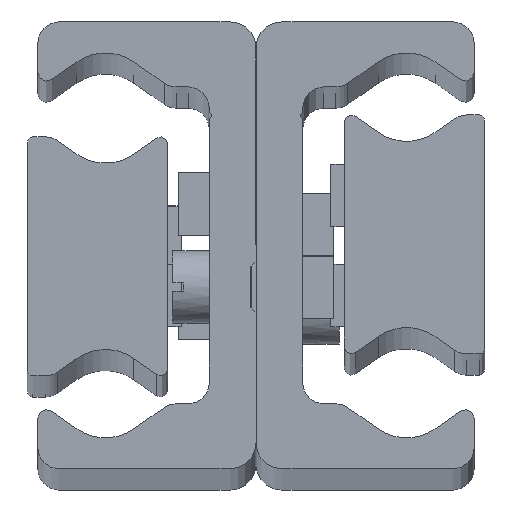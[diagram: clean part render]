
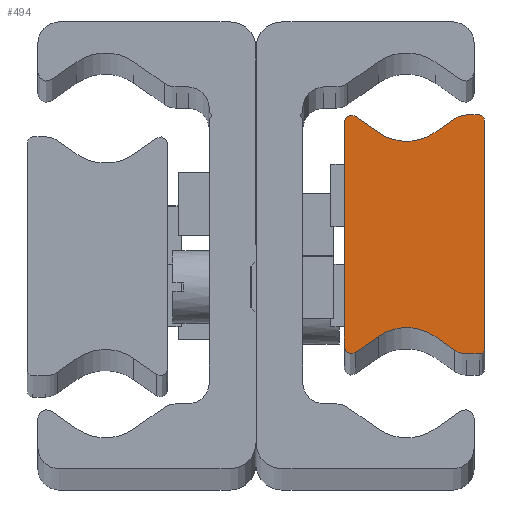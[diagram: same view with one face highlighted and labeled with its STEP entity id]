
A CAD part, top view. The second image highlights one B-rep face of the part: STEP entity #494.
In plain terms, the highlighted planar face has unit normal (0, 0, 1) as drawn and (0, 0, -1) by its records, which use the part's own axes.
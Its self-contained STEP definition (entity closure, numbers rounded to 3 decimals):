
#494 = ADVANCED_FACE( '', ( #1130 ), #1131, .F. );
#1130 = FACE_OUTER_BOUND( '', #1888, .T. );
#1131 = PLANE( '', #1889 );
#1888 = EDGE_LOOP( '', ( #3072, #3073, #3074, #3075, #3076, #3077, #3078, #3079, #3080, #3081, #3082, #3083, #3084, #3085, #3086, #3087 ) );
#1889 = AXIS2_PLACEMENT_3D( '', #3088, #3089, #3090 );
#3072 = ORIENTED_EDGE( '', *, *, #4184, .F. );
#3073 = ORIENTED_EDGE( '', *, *, #4185, .F. );
#3074 = ORIENTED_EDGE( '', *, *, #3927, .F. );
#3075 = ORIENTED_EDGE( '', *, *, #4079, .F. );
#3076 = ORIENTED_EDGE( '', *, *, #4186, .F. );
#3077 = ORIENTED_EDGE( '', *, *, #4187, .T. );
#3078 = ORIENTED_EDGE( '', *, *, #4188, .F. );
#3079 = ORIENTED_EDGE( '', *, *, #4042, .F. );
#3080 = ORIENTED_EDGE( '', *, *, #4008, .F. );
#3081 = ORIENTED_EDGE( '', *, *, #4189, .F. );
#3082 = ORIENTED_EDGE( '', *, *, #4190, .F. );
#3083 = ORIENTED_EDGE( '', *, *, #3825, .T. );
#3084 = ORIENTED_EDGE( '', *, *, #3916, .F. );
#3085 = ORIENTED_EDGE( '', *, *, #4179, .F. );
#3086 = ORIENTED_EDGE( '', *, *, #4092, .F. );
#3087 = ORIENTED_EDGE( '', *, *, #4191, .F. );
#3088 = CARTESIAN_POINT( '', ( 0.5, -11., -1170. ) );
#3089 = DIRECTION( '', ( 0., 0., 1. ) );
#3090 = DIRECTION( '', ( 1., 0., 0. ) );
#3825 = EDGE_CURVE( '', #4446, #4444, #4447, .T. );
#3916 = EDGE_CURVE( '', #4605, #4444, #4607, .T. );
#3927 = EDGE_CURVE( '', #4624, #4626, #4627, .T. );
#4008 = EDGE_CURVE( '', #4760, #4762, #4763, .T. );
#4042 = EDGE_CURVE( '', #4762, #4815, #4816, .T. );
#4079 = EDGE_CURVE( '', #4873, #4624, #4875, .T. );
#4092 = EDGE_CURVE( '', #4892, #4894, #4895, .T. );
#4179 = EDGE_CURVE( '', #4894, #4605, #5016, .T. );
#4184 = EDGE_CURVE( '', #5022, #5023, #5024, .T. );
#4185 = EDGE_CURVE( '', #4626, #5022, #5025, .T. );
#4186 = EDGE_CURVE( '', #5026, #4873, #5027, .T. );
#4187 = EDGE_CURVE( '', #5026, #5028, #5029, .T. );
#4188 = EDGE_CURVE( '', #4815, #5028, #5030, .T. );
#4189 = EDGE_CURVE( '', #5031, #4760, #5032, .T. );
#4190 = EDGE_CURVE( '', #4446, #5031, #5033, .T. );
#4191 = EDGE_CURVE( '', #5023, #4892, #5034, .T. );
#4444 = VERTEX_POINT( '', #5338 );
#4446 = VERTEX_POINT( '', #5341 );
#4447 = CIRCLE( '', #5342, 4.763 );
#4605 = VERTEX_POINT( '', #5539 );
#4607 = LINE( '', #5542, #5543 );
#4624 = VERTEX_POINT( '', #5565 );
#4626 = VERTEX_POINT( '', #5568 );
#4627 = LINE( '', #5569, #5570 );
#4760 = VERTEX_POINT( '', #5734 );
#4762 = VERTEX_POINT( '', #5737 );
#4763 = LINE( '', #5738, #5739 );
#4815 = VERTEX_POINT( '', #5805 );
#4816 = CIRCLE( '', #5806, 0.668 );
#4873 = VERTEX_POINT( '', #5875 );
#4875 = CIRCLE( '', #5878, 2. );
#4892 = VERTEX_POINT( '', #5897 );
#4894 = VERTEX_POINT( '', #5900 );
#4895 = LINE( '', #5901, #5902 );
#5016 = CIRCLE( '', #6051, 2. );
#5022 = VERTEX_POINT( '', #6059 );
#5023 = VERTEX_POINT( '', #6060 );
#5024 = LINE( '', #6061, #6062 );
#5025 = CIRCLE( '', #6063, 0.5 );
#5026 = VERTEX_POINT( '', #6064 );
#5027 = LINE( '', #6065, #6066 );
#5028 = VERTEX_POINT( '', #6067 );
#5029 = CIRCLE( '', #6068, 4.763 );
#5030 = LINE( '', #6069, #6070 );
#5031 = VERTEX_POINT( '', #6071 );
#5032 = CIRCLE( '', #6072, 0.668 );
#5033 = LINE( '', #6073, #6074 );
#5034 = CIRCLE( '', #6075, 0.5 );
#5338 = CARTESIAN_POINT( '', ( 4.768, -9.827, -1170. ) );
#5341 = CARTESIAN_POINT( '', ( 10.232, -9.827, -1170. ) );
#5342 = AXIS2_PLACEMENT_3D( '', #6374, #6375, #6376 );
#5539 = CARTESIAN_POINT( '', ( 2.895, -11.138, -1170. ) );
#5542 = CARTESIAN_POINT( '', ( 2.895, -11.138, -1170. ) );
#5543 = VECTOR( '', #6525, 1000. );
#5565 = CARTESIAN_POINT( '', ( 1.748, 11.5, -1170. ) );
#5568 = CARTESIAN_POINT( '', ( 0.5, 11.5, -1170. ) );
#5569 = CARTESIAN_POINT( '', ( 1.748, 11.5, -1170. ) );
#5570 = VECTOR( '', #6535, 1000. );
#5734 = CARTESIAN_POINT( '', ( 13.5, -10.832, -1170. ) );
#5737 = CARTESIAN_POINT( '', ( 13.5, 10.832, -1170. ) );
#5738 = CARTESIAN_POINT( '', ( 13.5, -10.832, -1170. ) );
#5739 = VECTOR( '', #6664, 1000. );
#5805 = CARTESIAN_POINT( '', ( 12.449, 11.379, -1170. ) );
#5806 = AXIS2_PLACEMENT_3D( '', #6706, #6707, #6708 );
#5875 = CARTESIAN_POINT( '', ( 2.895, 11.138, -1170. ) );
#5878 = AXIS2_PLACEMENT_3D( '', #6755, #6756, #6757 );
#5897 = CARTESIAN_POINT( '', ( 0.5, -11.5, -1170. ) );
#5900 = CARTESIAN_POINT( '', ( 1.748, -11.5, -1170. ) );
#5901 = CARTESIAN_POINT( '', ( 0.5, -11.5, -1170. ) );
#5902 = VECTOR( '', #6773, 1000. );
#6051 = AXIS2_PLACEMENT_3D( '', #6898, #6899, #6900 );
#6059 = CARTESIAN_POINT( '', ( 0., 11., -1170. ) );
#6060 = CARTESIAN_POINT( '', ( 0., -11., -1170. ) );
#6061 = CARTESIAN_POINT( '', ( 0., 11., -1170. ) );
#6062 = VECTOR( '', #6903, 1000. );
#6063 = AXIS2_PLACEMENT_3D( '', #6904, #6905, #6906 );
#6064 = CARTESIAN_POINT( '', ( 4.768, 9.827, -1170. ) );
#6065 = CARTESIAN_POINT( '', ( 4.768, 9.827, -1170. ) );
#6066 = VECTOR( '', #6907, 1000. );
#6067 = CARTESIAN_POINT( '', ( 10.232, 9.827, -1170. ) );
#6068 = AXIS2_PLACEMENT_3D( '', #6908, #6909, #6910 );
#6069 = CARTESIAN_POINT( '', ( 12.449, 11.379, -1170. ) );
#6070 = VECTOR( '', #6911, 1000. );
#6071 = CARTESIAN_POINT( '', ( 12.449, -11.379, -1170. ) );
#6072 = AXIS2_PLACEMENT_3D( '', #6912, #6913, #6914 );
#6073 = CARTESIAN_POINT( '', ( 10.232, -9.827, -1170. ) );
#6074 = VECTOR( '', #6915, 1000. );
#6075 = AXIS2_PLACEMENT_3D( '', #6916, #6917, #6918 );
#6374 = CARTESIAN_POINT( '', ( 7.5, -13.729, -1170. ) );
#6375 = DIRECTION( '', ( 0., 0., 1. ) );
#6376 = DIRECTION( '', ( 1., 0., 0. ) );
#6525 = DIRECTION( '', ( 0.819, 0.574, 0. ) );
#6535 = DIRECTION( '', ( -1., 0., 0. ) );
#6664 = DIRECTION( '', ( 0., 1., 0. ) );
#6706 = CARTESIAN_POINT( '', ( 12.832, 10.832, -1170. ) );
#6707 = DIRECTION( '', ( 0., 0., 1. ) );
#6708 = DIRECTION( '', ( 1., 0., 0. ) );
#6755 = CARTESIAN_POINT( '', ( 1.748, 9.5, -1170. ) );
#6756 = DIRECTION( '', ( 0., 0., 1. ) );
#6757 = DIRECTION( '', ( 1., 0., 0. ) );
#6773 = DIRECTION( '', ( 1., 0., 0. ) );
#6898 = CARTESIAN_POINT( '', ( 1.748, -9.5, -1170. ) );
#6899 = DIRECTION( '', ( 0., 0., 1. ) );
#6900 = DIRECTION( '', ( 1., 0., 0. ) );
#6903 = DIRECTION( '', ( 0., -1., 0. ) );
#6904 = CARTESIAN_POINT( '', ( 0.5, 11., -1170. ) );
#6905 = DIRECTION( '', ( 0., 0., 1. ) );
#6906 = DIRECTION( '', ( 1., 0., 0. ) );
#6907 = DIRECTION( '', ( -0.819, 0.574, 0. ) );
#6908 = CARTESIAN_POINT( '', ( 7.5, 13.729, -1170. ) );
#6909 = DIRECTION( '', ( 0., 0., 1. ) );
#6910 = DIRECTION( '', ( 1., 0., 0. ) );
#6911 = DIRECTION( '', ( -0.819, -0.574, 0. ) );
#6912 = CARTESIAN_POINT( '', ( 12.832, -10.832, -1170. ) );
#6913 = DIRECTION( '', ( 0., 0., 1. ) );
#6914 = DIRECTION( '', ( 1., 0., 0. ) );
#6915 = DIRECTION( '', ( 0.819, -0.574, 0. ) );
#6916 = CARTESIAN_POINT( '', ( 0.5, -11., -1170. ) );
#6917 = DIRECTION( '', ( 0., 0., 1. ) );
#6918 = DIRECTION( '', ( 1., 0., 0. ) );
